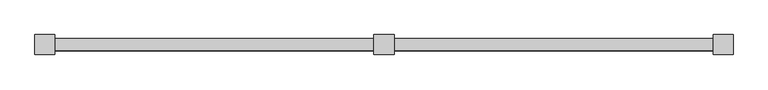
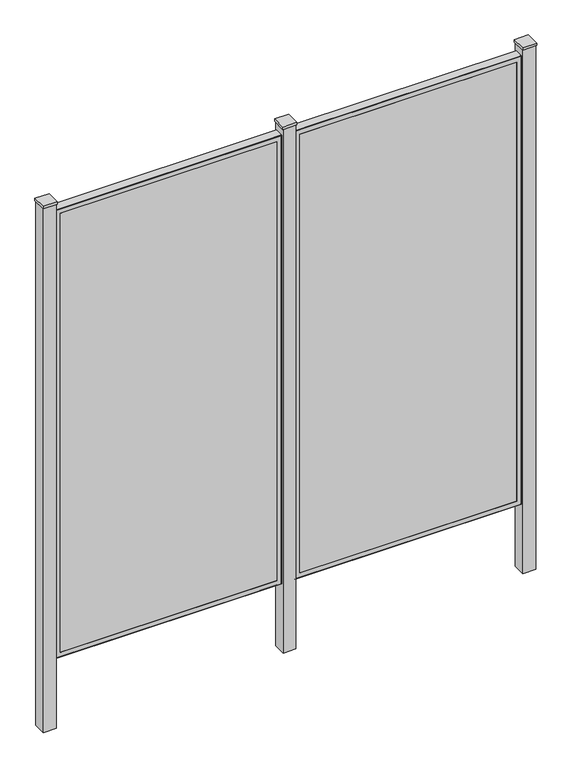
"""IFC4 building model written with IfcOpenShell, lengths in millimetres: proxy geometry, VIVA-Railings_Special-Equipment_Architectural-Fence-&-Landscape-Screens : 44” x 92” - Steel 0.078''."""

from ifc_helpers import new_model, si_unit, frame, origin, place, context, project, spatial, polyline, ellipse_curve, outline, extrude, source, transform, mapped, element, save
from ifc_brep_helpers import plane_surface, cylinder_surface, revolved_surface, advanced_brep


def specialty_equipment_7ffc2057(model_context):
    return source(origin(), model_context, "Body", "SolidModel", [
        extrude(outline(polyline([(2432.05, -34.925), (2362.2, -34.925), (2362.2, 34.925), (2432.05, 34.925), (2432.05, -34.925)])), frame((0.0, 0.0, 2425.7), z_axis=(0.0, 0.0, 1.0), x_axis=(1.0, 0.0, 0.0)), (0.0, 0.0, 1.0), 12.7),
        extrude(outline(polyline([(2365.375, 31.75), (2428.875, 31.75), (2428.875, -31.75), (2365.375, -31.75), (2365.375, 31.75)]), holes=[polyline([(2367.3562, -29.7688), (2426.8938, -29.7688), (2426.8938, 29.7688), (2367.3562, 29.7688), (2367.3562, -29.7688)])]), frame((0.0, 0.0, -304.8), z_axis=(0.0, 0.0, 1.0), x_axis=(1.0, 0.0, 0.0)), (0.0, 0.0, 1.0), 2730.5),
        advanced_brep(
        [(2365.375, 22.225, 2387.625), (2365.375, -20.2438, 2387.625), (2365.375, -20.2438, 50.825), (2365.375, 22.225, 50.825), (2363.3938, -18.6563, 2385.6438), (2363.3938, 22.225, 2385.6438), (2363.3938, 22.225, 52.8062), (2363.3938, -18.6563, 52.8062), (2361.8063, -20.2438, 2384.0563), (2361.8063, -20.2438, 54.3937), (2339.975, -22.225, 2362.225), (2339.975, -20.2438, 2362.225), (2339.975, -20.2438, 76.225), (2339.975, -22.225, 76.225), (2363.3938, -22.225, 2385.6438), (2363.3938, -22.225, 52.8062), (1247.775, -20.2438, 50.825), (1247.775, 22.225, 50.825), (1249.7562, 22.225, 52.8062), (1249.7562, -18.6563, 52.8062), (1251.3437, -20.2438, 54.3937), (1273.175, -20.2438, 76.225), (1273.175, -22.225, 76.225), (1249.7562, -22.225, 52.8062), (1247.775, -20.2438, 2387.625), (1247.775, 22.225, 2387.625), (1249.7562, 22.225, 2385.6438), (1249.7562, -18.6563, 2385.6438), (1251.3437, -20.2438, 2384.0563), (1273.175, -20.2438, 2362.225), (1273.175, -22.225, 2362.225), (1249.7562, -22.225, 2385.6438)],
        [
            (0, 1),
            (1, 2),
            (2, 3),
            (3, 0),
            (4, 5),
            (5, 6),
            (6, 7),
            (7, 4),
            (8, 4, ellipse_curve(frame((2361.8063, -18.6563, 2384.0563), z_axis=(-0.7071067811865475, 0.0, 0.7071067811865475), x_axis=(-0.7071067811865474, 0.0, -0.7071067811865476)), 2.245064, 1.5875)),
            (7, 9, ellipse_curve(frame((2361.8063, -18.6563, 54.3937), z_axis=(-0.7071067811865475, 0.0, -0.7071067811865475), x_axis=(0.7071067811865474, 0.0, -0.7071067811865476)), 2.245064, 1.5875)),
            (9, 8),
            (10, 11),
            (11, 12),
            (12, 13),
            (13, 10),
            (1, 14, ellipse_curve(frame((2363.3938, -20.2438, 2385.6438), z_axis=(0.7071067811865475, 0.0, -0.7071067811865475), x_axis=(0.7071067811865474, 0.0, 0.7071067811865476)), 2.8018399, 1.9812)),
            (14, 15),
            (15, 2, ellipse_curve(frame((2363.3938, -20.2438, 52.8062), z_axis=(0.7071067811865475, 0.0, 0.7071067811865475), x_axis=(-0.7071067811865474, 0.0, 0.7071067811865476)), 2.8018399, 1.9812)),
            (2, 16),
            (16, 17),
            (17, 3),
            (6, 18),
            (18, 19),
            (19, 7),
            (19, 20, ellipse_curve(frame((1251.3437, -18.6563, 54.3937), z_axis=(-0.7071067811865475, 0.0, 0.7071067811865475), x_axis=(-0.7071067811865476, 0.0, -0.7071067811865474)), 2.245064, 1.5875)),
            (20, 9),
            (12, 21),
            (21, 22),
            (22, 13),
            (15, 23),
            (23, 16, ellipse_curve(frame((1249.7562, -20.2438, 52.8062), z_axis=(0.7071067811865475, 0.0, -0.7071067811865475), x_axis=(0.7071067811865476, 0.0, 0.7071067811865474)), 2.8018399, 1.9812)),
            (16, 24),
            (24, 25),
            (25, 17),
            (18, 26),
            (26, 27),
            (27, 19),
            (27, 28, ellipse_curve(frame((1251.3437, -18.6563, 2384.0563), z_axis=(0.7071067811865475, 0.0, 0.7071067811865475), x_axis=(-0.7071067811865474, 0.0, 0.7071067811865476)), 2.245064, 1.5875)),
            (28, 20),
            (21, 29),
            (29, 30),
            (30, 22),
            (23, 31),
            (31, 24, ellipse_curve(frame((1249.7562, -20.2438, 2385.6438), z_axis=(-0.7071067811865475, 0.0, -0.7071067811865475), x_axis=(0.7071067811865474, 0.0, -0.7071067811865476)), 2.8018399, 1.9812)),
            (24, 1),
            (0, 25),
            (5, 26),
            (4, 27),
            (8, 28),
            (11, 29),
            (10, 30),
            (14, 31),
        ],
        [
            plane_surface(frame((2365.375, -20.2438, 2387.625), z_axis=(1.0, 0.0, 0.0), x_axis=(0.0, 0.0, -1.0))),
            plane_surface(frame((2363.3938, 22.225, 2385.6438), z_axis=(-1.0, 0.0, 0.0), x_axis=(0.0, 0.0, -1.0))),
            revolved_surface(polyline([(2363.3938000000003, -18.6563, 52.80619999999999), (2363.3938000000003, -18.6563, 2385.6438)]), (2361.8063, -18.6563, 2387.625), (0.0, 0.0, -1.0)),
            plane_surface(frame((2339.975, -20.2438, 2362.225), z_axis=(-1.0, 0.0, 0.0), x_axis=(0.0, 0.0, -1.0))),
            cylinder_surface(frame((2363.3938, -20.2438, 2387.625), z_axis=(0.0, 0.0, 1.0), x_axis=(1.0, 0.0, 0.0)), 1.9812),
            plane_surface(frame((2365.375, -20.2438, 50.825), z_axis=(0.0, 0.0, -1.0), x_axis=(-1.0, 0.0, 0.0))),
            plane_surface(frame((2363.3938, 22.225, 52.8062), z_axis=(0.0, 0.0, 1.0), x_axis=(-1.0, 0.0, 0.0))),
            revolved_surface(polyline([(1249.7562, -18.6563, 52.806200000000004), (2363.3938, -18.6563, 52.806200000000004)]), (2365.375, -18.6563, 54.3937), (-1.0, 0.0, 0.0)),
            plane_surface(frame((2339.975, -20.2438, 76.225), z_axis=(0.0, 0.0, 1.0), x_axis=(-1.0, 0.0, 0.0))),
            cylinder_surface(frame((2365.375, -20.2438, 52.8062), z_axis=(1.0, 0.0, 0.0), x_axis=(0.0, 0.0, -1.0)), 1.9812),
            plane_surface(frame((1247.775, -20.2438, 50.825), z_axis=(-1.0, 0.0, 0.0), x_axis=(0.0, 0.0, 1.0))),
            plane_surface(frame((1249.7562, 22.225, 52.8062), z_axis=(1.0, 0.0, 0.0), x_axis=(0.0, 0.0, 1.0))),
            revolved_surface(polyline([(1249.7561999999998, -18.6563, 2385.6438), (1249.7561999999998, -18.6563, 52.8062)]), (1251.3437, -18.6563, 50.825), (0.0, 0.0, 1.0)),
            plane_surface(frame((1273.175, -20.2438, 76.225), z_axis=(1.0, 0.0, 0.0), x_axis=(0.0, 0.0, 1.0))),
            cylinder_surface(frame((1249.7562, -20.2438, 50.825), z_axis=(0.0, 0.0, -1.0), x_axis=(-1.0, 0.0, 0.0)), 1.9812),
            plane_surface(frame((1247.775, -20.2438, 2387.625), z_axis=(0.0, 0.0, 1.0), x_axis=(1.0, 0.0, 0.0))),
            plane_surface(frame((1247.775, 22.225, 2387.625), z_axis=(0.0, 1.0, 0.0), x_axis=(1.0, 0.0, 0.0))),
            plane_surface(frame((1249.7562, 22.225, 2385.6438), z_axis=(0.0, 0.0, -1.0), x_axis=(1.0, 0.0, 0.0))),
            revolved_surface(polyline([(2363.3938, -18.6563, 2385.6438000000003), (1249.7562, -18.6563, 2385.6438000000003)]), (1247.775, -18.6563, 2384.0563), (1.0, 0.0, 0.0)),
            plane_surface(frame((1251.3437, -20.2438, 2384.0563), z_axis=(0.0, 1.0, 0.0), x_axis=(1.0, 0.0, 0.0))),
            plane_surface(frame((1273.175, -20.2438, 2362.225), z_axis=(0.0, 0.0, -1.0), x_axis=(1.0, 0.0, 0.0))),
            plane_surface(frame((1273.175, -22.225, 2362.225), z_axis=(0.0, -1.0, 0.0), x_axis=(1.0, 0.0, 0.0))),
            cylinder_surface(frame((1247.775, -20.2438, 2385.6438), z_axis=(-1.0, 0.0, 0.0), x_axis=(0.0, 0.0, 1.0)), 1.9812),
        ],
        [
            (0, [[1, 2, 3, 4]]),
            (1, [[5, 6, 7, 8]]),
            (2, [[9, -8, 10, 11]]),
            (3, [[12, 13, 14, 15]]),
            (4, [[16, 17, 18, -2]]),
            (5, [[-3, 19, 20, 21]]),
            (6, [[-7, 22, 23, 24]]),
            (7, [[-10, -24, 25, 26]]),
            (8, [[-14, 27, 28, 29]]),
            (9, [[-18, 30, 31, -19]]),
            (10, [[-20, 32, 33, 34]]),
            (11, [[-23, 35, 36, 37]]),
            (12, [[-25, -37, 38, 39]]),
            (13, [[-28, 40, 41, 42]]),
            (14, [[-31, 43, 44, -32]]),
            (15, [[-33, 45, -1, 46]]),
            (16, [[-21, -34, -46, -4], [47, -35, -22, -6]]),
            (17, [[-36, -47, -5, 48]]),
            (18, [[-38, -48, -9, 49]]),
            (19, [[-26, -39, -49, -11], [50, -40, -27, -13]]),
            (20, [[-41, -50, -12, 51]]),
            (21, [[52, -43, -30, -17], [-29, -42, -51, -15]]),
            (22, [[-44, -52, -16, -45]]),
        ],
    ),
        advanced_brep(
        [(1184.275, 22.225, 2387.625), (1184.275, -20.2438, 2387.625), (1184.275, -20.2438, 50.825), (1184.275, 22.225, 50.825), (1182.2938, -18.6563, 2385.6438), (1182.2938, 22.225, 2385.6438), (1182.2938, 22.225, 52.8062), (1182.2938, -18.6563, 52.8062), (1180.7063, -20.2438, 2384.0563), (1180.7063, -20.2438, 54.3937), (1158.875, -22.225, 2362.225), (1158.875, -20.2438, 2362.225), (1158.875, -20.2438, 76.225), (1158.875, -22.225, 76.225), (1182.2938, -22.225, 2385.6438), (1182.2938, -22.225, 52.8062), (66.675, -20.2438, 50.825), (66.675, 22.225, 50.825), (68.6562, 22.225, 52.8062), (68.6562, -18.6563, 52.8062), (70.2437, -20.2438, 54.3937), (92.075, -20.2438, 76.225), (92.075, -22.225, 76.225), (68.6562, -22.225, 52.8062), (66.675, -20.2438, 2387.625), (66.675, 22.225, 2387.625), (68.6562, 22.225, 2385.6438), (68.6562, -18.6563, 2385.6438), (70.2437, -20.2438, 2384.0563), (92.075, -20.2438, 2362.225), (92.075, -22.225, 2362.225), (68.6562, -22.225, 2385.6438)],
        [
            (0, 1),
            (1, 2),
            (2, 3),
            (3, 0),
            (4, 5),
            (5, 6),
            (6, 7),
            (7, 4),
            (8, 4, ellipse_curve(frame((1180.7063, -18.6563, 2384.0563), z_axis=(-0.7071067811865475, 0.0, 0.7071067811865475), x_axis=(-0.7071067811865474, 0.0, -0.7071067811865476)), 2.245064, 1.5875)),
            (7, 9, ellipse_curve(frame((1180.7063, -18.6563, 54.3937), z_axis=(-0.7071067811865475, 0.0, -0.7071067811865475), x_axis=(0.7071067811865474, 0.0, -0.7071067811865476)), 2.245064, 1.5875)),
            (9, 8),
            (10, 11),
            (11, 12),
            (12, 13),
            (13, 10),
            (1, 14, ellipse_curve(frame((1182.2938, -20.2438, 2385.6438), z_axis=(0.7071067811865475, 0.0, -0.7071067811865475), x_axis=(0.7071067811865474, 0.0, 0.7071067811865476)), 2.8018399, 1.9812)),
            (14, 15),
            (15, 2, ellipse_curve(frame((1182.2938, -20.2438, 52.8062), z_axis=(0.7071067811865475, 0.0, 0.7071067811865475), x_axis=(-0.7071067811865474, 0.0, 0.7071067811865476)), 2.8018399, 1.9812)),
            (2, 16),
            (16, 17),
            (17, 3),
            (6, 18),
            (18, 19),
            (19, 7),
            (19, 20, ellipse_curve(frame((70.2437, -18.6563, 54.3937), z_axis=(-0.7071067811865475, 0.0, 0.7071067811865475), x_axis=(-0.7071067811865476, 0.0, -0.7071067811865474)), 2.245064, 1.5875)),
            (20, 9),
            (12, 21),
            (21, 22),
            (22, 13),
            (15, 23),
            (23, 16, ellipse_curve(frame((68.6562, -20.2438, 52.8062), z_axis=(0.7071067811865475, 0.0, -0.7071067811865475), x_axis=(0.7071067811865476, 0.0, 0.7071067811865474)), 2.8018399, 1.9812)),
            (16, 24),
            (24, 25),
            (25, 17),
            (18, 26),
            (26, 27),
            (27, 19),
            (27, 28, ellipse_curve(frame((70.2437, -18.6563, 2384.0563), z_axis=(0.7071067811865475, 0.0, 0.7071067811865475), x_axis=(-0.7071067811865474, 0.0, 0.7071067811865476)), 2.245064, 1.5875)),
            (28, 20),
            (21, 29),
            (29, 30),
            (30, 22),
            (23, 31),
            (31, 24, ellipse_curve(frame((68.6562, -20.2438, 2385.6438), z_axis=(-0.7071067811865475, 0.0, -0.7071067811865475), x_axis=(0.7071067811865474, 0.0, -0.7071067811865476)), 2.8018399, 1.9812)),
            (24, 1),
            (0, 25),
            (5, 26),
            (4, 27),
            (8, 28),
            (11, 29),
            (10, 30),
            (14, 31),
        ],
        [
            plane_surface(frame((1184.275, -20.2438, 2387.625), z_axis=(1.0, 0.0, 0.0), x_axis=(0.0, 0.0, -1.0))),
            plane_surface(frame((1182.2938, 22.225, 2385.6438), z_axis=(-1.0, 0.0, 0.0), x_axis=(0.0, 0.0, -1.0))),
            revolved_surface(polyline([(1182.2938000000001, -18.6563, 52.80619999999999), (1182.2938000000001, -18.6563, 2385.6438)]), (1180.7063, -18.6563, 2387.625), (0.0, 0.0, -1.0)),
            plane_surface(frame((1158.875, -20.2438, 2362.225), z_axis=(-1.0, 0.0, 0.0), x_axis=(0.0, 0.0, -1.0))),
            cylinder_surface(frame((1182.2938, -20.2438, 2387.625), z_axis=(0.0, 0.0, 1.0), x_axis=(1.0, 0.0, 0.0)), 1.9812),
            plane_surface(frame((1184.275, -20.2438, 50.825), z_axis=(0.0, 0.0, -1.0), x_axis=(-1.0, 0.0, 0.0))),
            plane_surface(frame((1182.2938, 22.225, 52.8062), z_axis=(0.0, 0.0, 1.0), x_axis=(-1.0, 0.0, 0.0))),
            revolved_surface(polyline([(68.6561999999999, -18.6563, 52.806200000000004), (1182.2938, -18.6563, 52.806200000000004)]), (1184.275, -18.6563, 54.3937), (-1.0, 0.0, 0.0)),
            plane_surface(frame((1158.875, -20.2438, 76.225), z_axis=(0.0, 0.0, 1.0), x_axis=(-1.0, 0.0, 0.0))),
            cylinder_surface(frame((1184.275, -20.2438, 52.8062), z_axis=(1.0, 0.0, 0.0), x_axis=(0.0, 0.0, -1.0)), 1.9812),
            plane_surface(frame((66.675, -20.2438, 50.825), z_axis=(-1.0, 0.0, 0.0), x_axis=(0.0, 0.0, 1.0))),
            plane_surface(frame((68.6562, 22.225, 52.8062), z_axis=(1.0, 0.0, 0.0), x_axis=(0.0, 0.0, 1.0))),
            revolved_surface(polyline([(68.6562, -18.6563, 2385.6438), (68.6562, -18.6563, 52.8062)]), (70.2437, -18.6563, 50.825), (0.0, 0.0, 1.0)),
            plane_surface(frame((92.075, -20.2438, 76.225), z_axis=(1.0, 0.0, 0.0), x_axis=(0.0, 0.0, 1.0))),
            cylinder_surface(frame((68.6562, -20.2438, 50.825), z_axis=(0.0, 0.0, -1.0), x_axis=(-1.0, 0.0, 0.0)), 1.9812),
            plane_surface(frame((66.675, -20.2438, 2387.625), z_axis=(0.0, 0.0, 1.0), x_axis=(1.0, 0.0, 0.0))),
            plane_surface(frame((66.675, 22.225, 2387.625), z_axis=(0.0, 1.0, 0.0), x_axis=(1.0, 0.0, 0.0))),
            plane_surface(frame((68.6562, 22.225, 2385.6438), z_axis=(0.0, 0.0, -1.0), x_axis=(1.0, 0.0, 0.0))),
            revolved_surface(polyline([(1182.2938, -18.6563, 2385.6438000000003), (68.6562, -18.6563, 2385.6438000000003)]), (66.675, -18.6563, 2384.0563), (1.0, 0.0, 0.0)),
            plane_surface(frame((70.2437, -20.2438, 2384.0563), z_axis=(0.0, 1.0, 0.0), x_axis=(1.0, 0.0, 0.0))),
            plane_surface(frame((92.075, -20.2438, 2362.225), z_axis=(0.0, 0.0, -1.0), x_axis=(1.0, 0.0, 0.0))),
            plane_surface(frame((92.075, -22.225, 2362.225), z_axis=(0.0, -1.0, 0.0), x_axis=(1.0, 0.0, 0.0))),
            cylinder_surface(frame((66.675, -20.2438, 2385.6438), z_axis=(-1.0, 0.0, 0.0), x_axis=(0.0, 0.0, 1.0)), 1.9812),
        ],
        [
            (0, [[1, 2, 3, 4]]),
            (1, [[5, 6, 7, 8]]),
            (2, [[9, -8, 10, 11]]),
            (3, [[12, 13, 14, 15]]),
            (4, [[16, 17, 18, -2]]),
            (5, [[-3, 19, 20, 21]]),
            (6, [[-7, 22, 23, 24]]),
            (7, [[-10, -24, 25, 26]]),
            (8, [[-14, 27, 28, 29]]),
            (9, [[-18, 30, 31, -19]]),
            (10, [[-20, 32, 33, 34]]),
            (11, [[-23, 35, 36, 37]]),
            (12, [[-25, -37, 38, 39]]),
            (13, [[-28, 40, 41, 42]]),
            (14, [[-31, 43, 44, -32]]),
            (15, [[-33, 45, -1, 46]]),
            (16, [[-21, -34, -46, -4], [47, -35, -22, -6]]),
            (17, [[-36, -47, -5, 48]]),
            (18, [[-38, -48, -9, 49]]),
            (19, [[-26, -39, -49, -11], [50, -40, -27, -13]]),
            (20, [[-41, -50, -12, 51]]),
            (21, [[52, -43, -30, -17], [-29, -42, -51, -15]]),
            (22, [[-44, -52, -16, -45]]),
        ],
    ),
        extrude(outline(polyline([(2339.975, -22.225), (1273.175, -22.225), (1273.175, -20.2438), (2339.975, -20.2438), (2339.975, -22.225)])), frame((0.0, 0.0, 76.225), z_axis=(0.0, 0.0, 1.0), x_axis=(1.0, 0.0, 0.0)), (0.0, 0.0, 1.0), 2286.0),
        extrude(outline(polyline([(1158.875, -22.225), (92.075, -22.225), (92.075, -20.2438), (1158.875, -20.2438), (1158.875, -22.225)])), frame((0.0, 0.0, 76.225), z_axis=(0.0, 0.0, 1.0), x_axis=(1.0, 0.0, 0.0)), (0.0, 0.0, 1.0), 2286.0),
        extrude(outline(polyline([(1250.95, -34.925), (1181.1, -34.925), (1181.1, 34.925), (1250.95, 34.925), (1250.95, -34.925)])), frame((0.0, 0.0, 2425.7), z_axis=(0.0, 0.0, 1.0), x_axis=(1.0, 0.0, 0.0)), (0.0, 0.0, 1.0), 12.7),
        extrude(outline(polyline([(1184.275, 31.75), (1247.775, 31.75), (1247.775, -31.75), (1184.275, -31.75), (1184.275, 31.75)]), holes=[polyline([(1186.2562, -29.7688), (1245.7938, -29.7688), (1245.7938, 29.7688), (1186.2562, 29.7688), (1186.2562, -29.7688)])]), frame((0.0, 0.0, -304.8), z_axis=(0.0, 0.0, 1.0), x_axis=(1.0, 0.0, 0.0)), (0.0, 0.0, 1.0), 2730.5),
        extrude(outline(polyline([(69.85, -34.925), (0.0, -34.925), (0.0, 34.925), (69.85, 34.925), (69.85, -34.925)])), frame((0.0, 0.0, 2425.7), z_axis=(0.0, 0.0, 1.0), x_axis=(1.0, 0.0, 0.0)), (0.0, 0.0, 1.0), 12.7),
        extrude(outline(polyline([(3.175, 31.75), (66.675, 31.75), (66.675, -31.75), (3.175, -31.75), (3.175, 31.75)]), holes=[polyline([(5.1562, -29.7688), (64.6938, -29.7688), (64.6938, 29.7688), (5.1562, 29.7688), (5.1562, -29.7688)])]), frame((0.0, 0.0, -304.8), z_axis=(0.0, 0.0, 1.0), x_axis=(1.0, 0.0, 0.0)), (0.0, 0.0, 1.0), 2730.5),
    ])


if __name__ == "__main__":
    model = new_model("IFC4")
    model_context = context("Model", 3, world=origin())
    ifc_project = project(units=[si_unit("LENGTHUNIT", "METRE", prefix="MILLI")], contexts=[model_context])
    site = spatial("IfcSite", under=ifc_project)
    building = spatial("IfcBuilding", under=site)
    placement = place(None, origin())
    specialty_equipment_shape = specialty_equipment_7ffc2057(model_context)
    element("IfcBuildingElementProxy", 1, Name="VIVA-Railings_Special-Equipment_Architectural-Fence-&-Landscape-Screens : 44” x 92” - Steel 0.078''", ObjectType="VIVA-Railings_Special-Equipment_Architectural-Fence-&-Landscape-Screens : 44” x 92” - Steel 0.078''", at=placement, inside=building, context=model_context, shape_type="MappedRepresentation", body=[
        mapped(specialty_equipment_shape, transform((0.0, 0.0, 0.0), x_axis=(1.0, 0.0, 0.0), y_axis=(0.0, 1.0, 0.0), z_axis=(0.0, 0.0, 1.0))),
    ])
    save(model, "model.ifc")
